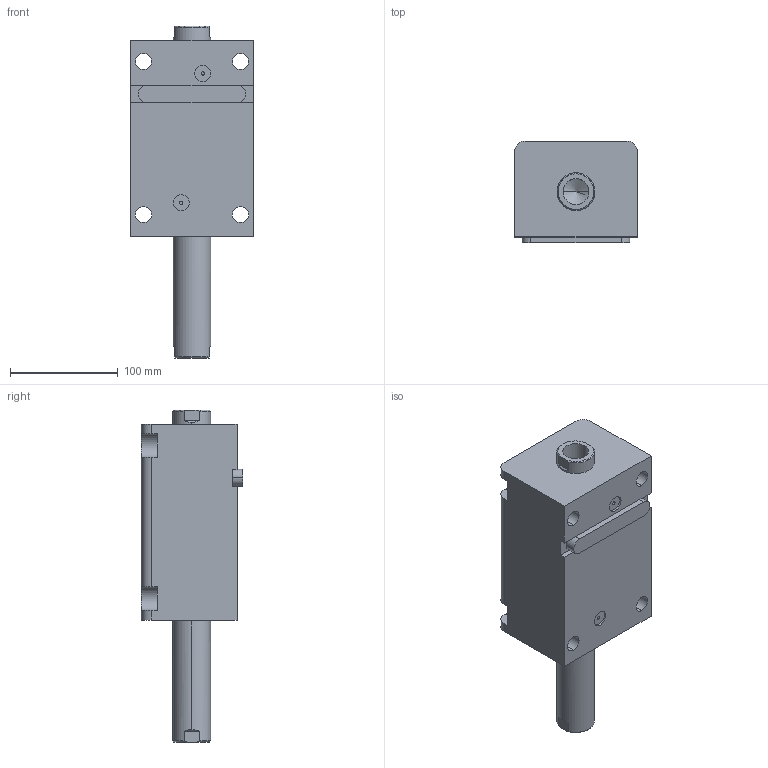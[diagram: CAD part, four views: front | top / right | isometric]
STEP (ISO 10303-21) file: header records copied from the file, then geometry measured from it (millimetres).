
FILE_DESCRIPTION (( 'STEP AP203' ), '1' );
FILE_NAME ('HTB-LWM63-100N.STEP', '2020-12-25T03:57:00', ( '微软用户' ), ( '微软中国' ), 'SwSTEP 2.0', 'SolidWorks 2012', '' );
FILE_SCHEMA (( 'CONFIG_CONTROL_DESIGN' ));
Length unit declared in the file: millimetre
Products named in the file (4): HTB-LWM63-100掛极; HTB-LWM63-100N活塞杆; HTB-LWM63-瑩; HTB-LWM63-100N
Assembly tree (3 placements, depth 2):
  HTB-LWM63-100N
    HTB-LWM63-100掛极
    HTB-LWM63-100N活塞杆
    HTB-LWM63-瑩
Bounding box: 114 x 94.5 x 308 mm (x, y, z)
Volume: 1636913.4 mm3; surface area: 194098.7 mm2
Topology: 3 solids, 3 shells, 105 faces, 261 edges, 168 vertices
Faces by surface type: cylinder 45, plane 44, torus 8, cone 8
Entity records: 3571 total; most frequent: CARTESIAN_POINT 592, DIRECTION 573, ORIENTED_EDGE 514, EDGE_CURVE 257, AXIS2_PLACEMENT_3D 221, VERTEX_POINT 168, LINE 131, VECTOR 131
